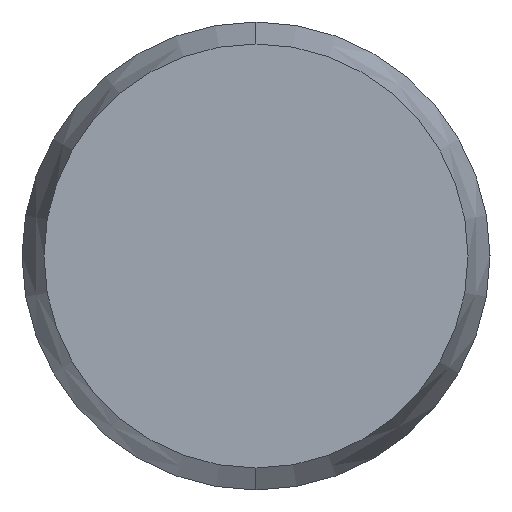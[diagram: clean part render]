
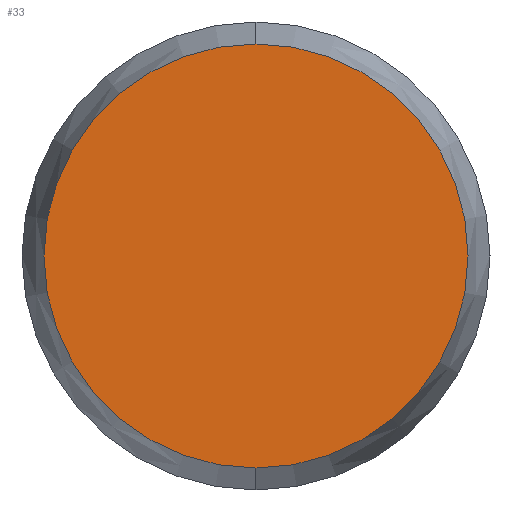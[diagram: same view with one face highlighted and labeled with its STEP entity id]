
A CAD part, left-side view. The second image highlights one B-rep face of the part: STEP entity #33.
In plain terms, the highlighted planar face has unit normal (-1, 0, 0).
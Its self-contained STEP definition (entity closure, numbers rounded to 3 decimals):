
#3 = EDGE_LOOP ( 'NONE', ( #30, #31 ) ) ;
#8 = EDGE_CURVE ( 'NONE', #47, #46, #178, .T. ) ;
#30 = ORIENTED_EDGE ( 'NONE', *, *, #45, .F. ) ;
#31 = ORIENTED_EDGE ( 'NONE', *, *, #8, .F. ) ;
#33 = ADVANCED_FACE ( 'NONE', ( #120 ), #123, .F. ) ;
#45 = EDGE_CURVE ( 'NONE', #46, #47, #96, .T. ) ;
#46 = VERTEX_POINT ( 'NONE', #150 ) ;
#47 = VERTEX_POINT ( 'NONE', #149 ) ;
#96 = CIRCLE ( 'NONE', #154, 1.812 ) ;
#116 = DIRECTION ( 'NONE',  ( 0., 0., -1. ) ) ;
#117 = DIRECTION ( 'NONE',  ( 1., 0., 0. ) ) ;
#118 = CARTESIAN_POINT ( 'NONE',  ( -8., 0., 0. ) ) ;
#119 = AXIS2_PLACEMENT_3D ( 'NONE', #118, #117, #116 ) ;
#120 = FACE_OUTER_BOUND ( 'NONE', #3, .T. ) ;
#123 = PLANE ( 'NONE',  #119 ) ;
#149 = CARTESIAN_POINT ( 'NONE',  ( -8., 0., -1.812 ) ) ;
#150 = CARTESIAN_POINT ( 'NONE',  ( -8., 0., 1.812 ) ) ;
#151 = DIRECTION ( 'NONE',  ( 0., 0., -1. ) ) ;
#152 = DIRECTION ( 'NONE',  ( 1., 0., 0. ) ) ;
#153 = CARTESIAN_POINT ( 'NONE',  ( -8., 0., 0. ) ) ;
#154 = AXIS2_PLACEMENT_3D ( 'NONE', #153, #152, #151 ) ;
#174 = DIRECTION ( 'NONE',  ( 0., 0., -1. ) ) ;
#175 = DIRECTION ( 'NONE',  ( 1., 0., 0. ) ) ;
#176 = CARTESIAN_POINT ( 'NONE',  ( -8., 0., 0. ) ) ;
#177 = AXIS2_PLACEMENT_3D ( 'NONE', #176, #175, #174 ) ;
#178 = CIRCLE ( 'NONE', #177, 1.812 ) ;
